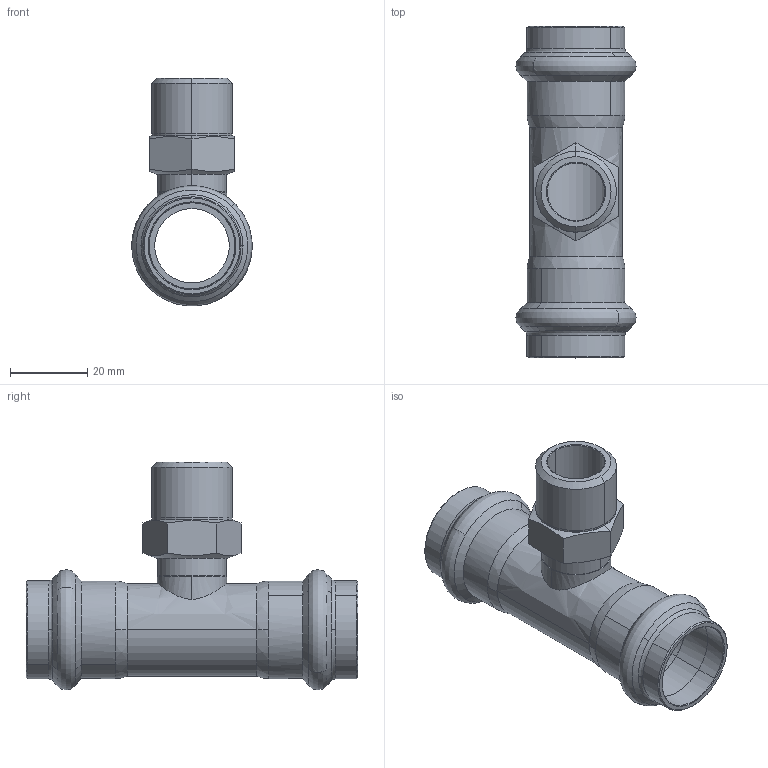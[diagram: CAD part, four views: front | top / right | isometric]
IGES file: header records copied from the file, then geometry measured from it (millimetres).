
Start section: Elysium IGES Interface
Global section: file name: C:\Users\Wallenburg\Desktop\3d modellen sudo\S-Pr VP\SP6132GV\6132GVW221222.igs; native system: CoCreate Modeling 17.00A  17-Jun-2010; preprocessor: CoCreate IGES_3D V2.2; author: Unknown; organization: Unknown; date: 20130123.160432; units: millimetre
Bounding box: 31.19 x 86.01 x 59.09 mm (x, y, z)
Volume: 17340 mm3; surface area: 17376.1 mm2
Topology: 1 solids, 1 shells, 110 faces, 269 edges, 165 vertices
Faces by surface type: bspline 110
